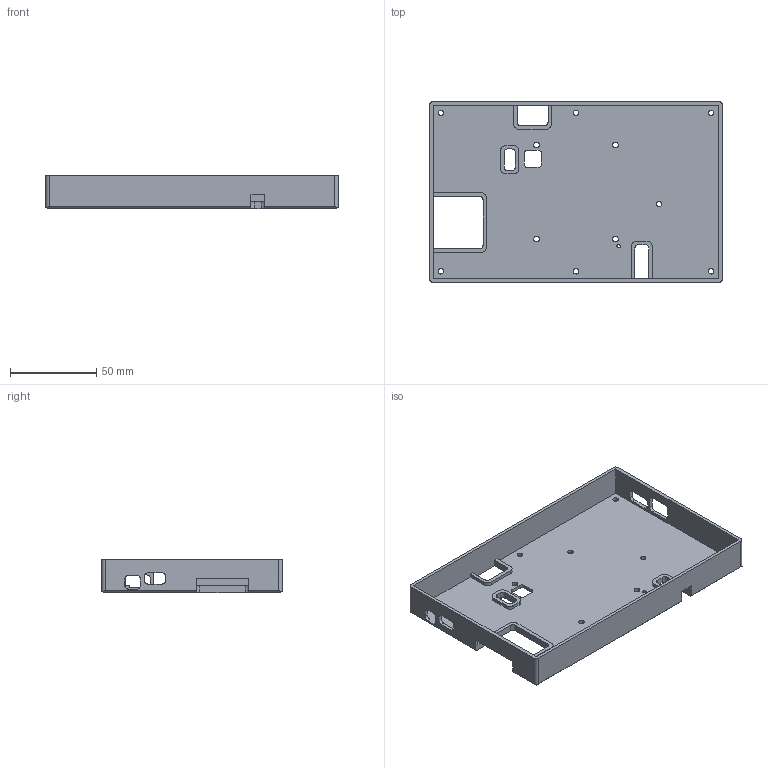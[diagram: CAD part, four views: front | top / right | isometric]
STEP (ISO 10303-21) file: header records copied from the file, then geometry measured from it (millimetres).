
FILE_DESCRIPTION(('FreeCAD Model'),'2;1');
FILE_NAME('Open CASCADE Shape Model','2026-01-20T11:36:12',(''),(''), 'Open CASCADE STEP processor 7.8','FreeCAD','Unknown');
FILE_SCHEMA(('AUTOMOTIVE_DESIGN { 1 0 10303 214 1 1 1 1 }'));
Length unit declared in the file: millimetre
Products named in the file (1): Body
Bounding box: 170 x 105 x 19.2 mm (x, y, z)
Volume: 50501.7 mm3; surface area: 52710.1 mm2
Topology: 1 solids, 1 shells, 124 faces, 380 edges, 254 vertices
Faces by surface type: plane 68, cylinder 56
Full cylindrical faces by diameter (mm): 2 x1, 3 x1, 3.25 x6, 3.4 x4
Entity records: 4382 total; most frequent: ORIENTED_EDGE 760, CARTESIAN_POINT 759, DIRECTION 746, EDGE_CURVE 380, LINE 264, VECTOR 264, VERTEX_POINT 254, AXIS2_PLACEMENT_3D 241
